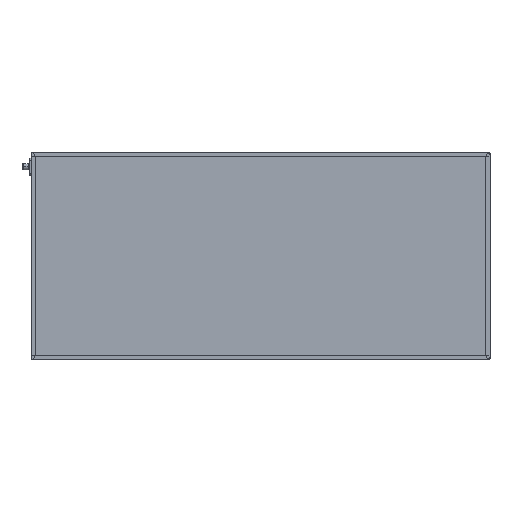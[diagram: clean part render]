
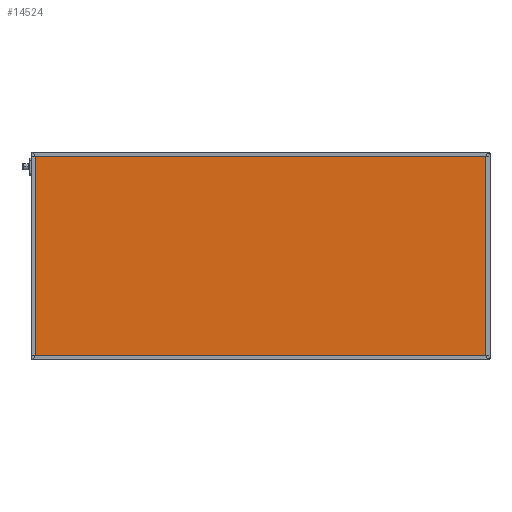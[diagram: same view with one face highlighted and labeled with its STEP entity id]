
A CAD part, top view. The second image highlights one B-rep face of the part: STEP entity #14524.
In plain terms, the highlighted planar face has unit normal (0, 0, 1).
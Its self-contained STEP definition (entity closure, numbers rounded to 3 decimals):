
#179 = VERTEX_POINT ( 'NONE', #6711 ) ;
#374 = LINE ( 'NONE', #8334, #3087 ) ;
#792 = PLANE ( 'NONE',  #9342 ) ;
#2137 = CARTESIAN_POINT ( 'NONE',  ( 4., 4., 41.85 ) ) ;
#2331 = ORIENTED_EDGE ( 'NONE', *, *, #2990, .T. ) ;
#2424 = EDGE_LOOP ( 'NONE', ( #2536, #13831, #9533, #2331 ) ) ;
#2536 = ORIENTED_EDGE ( 'NONE', *, *, #9999, .T. ) ;
#2595 = CARTESIAN_POINT ( 'NONE',  ( 4., 396., 41.85 ) ) ;
#2990 = EDGE_CURVE ( 'NONE', #15817, #15326, #3603, .T. ) ;
#3087 = VECTOR ( 'NONE', #7108, 1000. ) ;
#3329 = FACE_OUTER_BOUND ( 'NONE', #2424, .T. ) ;
#3603 = LINE ( 'NONE', #8940, #15100 ) ;
#4810 = CARTESIAN_POINT ( 'NONE',  ( 0., 0., 41.85 ) ) ;
#5301 = CARTESIAN_POINT ( 'NONE',  ( 896., 0., 41.85 ) ) ;
#5702 = VERTEX_POINT ( 'NONE', #2595 ) ;
#6101 = LINE ( 'NONE', #14108, #8529 ) ;
#6446 = EDGE_CURVE ( 'NONE', #179, #5702, #6101, .T. ) ;
#6711 = CARTESIAN_POINT ( 'NONE',  ( 896., 396., 41.85 ) ) ;
#7108 = DIRECTION ( 'NONE',  ( 0., -1., 0. ) ) ;
#7467 = DIRECTION ( 'NONE',  ( 1., 0., 0. ) ) ;
#8267 = EDGE_CURVE ( 'NONE', #5702, #15817, #374, .T. ) ;
#8334 = CARTESIAN_POINT ( 'NONE',  ( 4., 0., 41.85 ) ) ;
#8529 = VECTOR ( 'NONE', #10034, 1000. ) ;
#8672 = DIRECTION ( 'NONE',  ( 0., 0., -1. ) ) ;
#8940 = CARTESIAN_POINT ( 'NONE',  ( 0., 4., 41.85 ) ) ;
#9342 = AXIS2_PLACEMENT_3D ( 'NONE', #4810, #8672, #11106 ) ;
#9533 = ORIENTED_EDGE ( 'NONE', *, *, #8267, .T. ) ;
#9999 = EDGE_CURVE ( 'NONE', #15326, #179, #16091, .T. ) ;
#10034 = DIRECTION ( 'NONE',  ( -1., 0., 0. ) ) ;
#10355 = VECTOR ( 'NONE', #16011, 1000. ) ;
#11106 = DIRECTION ( 'NONE',  ( -1., 0., 0. ) ) ;
#13831 = ORIENTED_EDGE ( 'NONE', *, *, #6446, .T. ) ;
#14108 = CARTESIAN_POINT ( 'NONE',  ( 0., 396., 41.85 ) ) ;
#14524 = ADVANCED_FACE ( 'NONE', ( #3329 ), #792, .F. ) ;
#15100 = VECTOR ( 'NONE', #7467, 1000. ) ;
#15326 = VERTEX_POINT ( 'NONE', #15753 ) ;
#15753 = CARTESIAN_POINT ( 'NONE',  ( 896., 4., 41.85 ) ) ;
#15817 = VERTEX_POINT ( 'NONE', #2137 ) ;
#16011 = DIRECTION ( 'NONE',  ( 0., 1., 0. ) ) ;
#16091 = LINE ( 'NONE', #5301, #10355 ) ;
